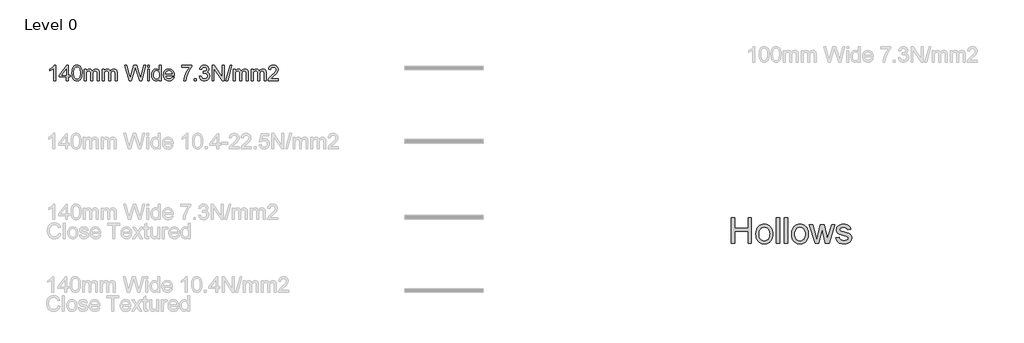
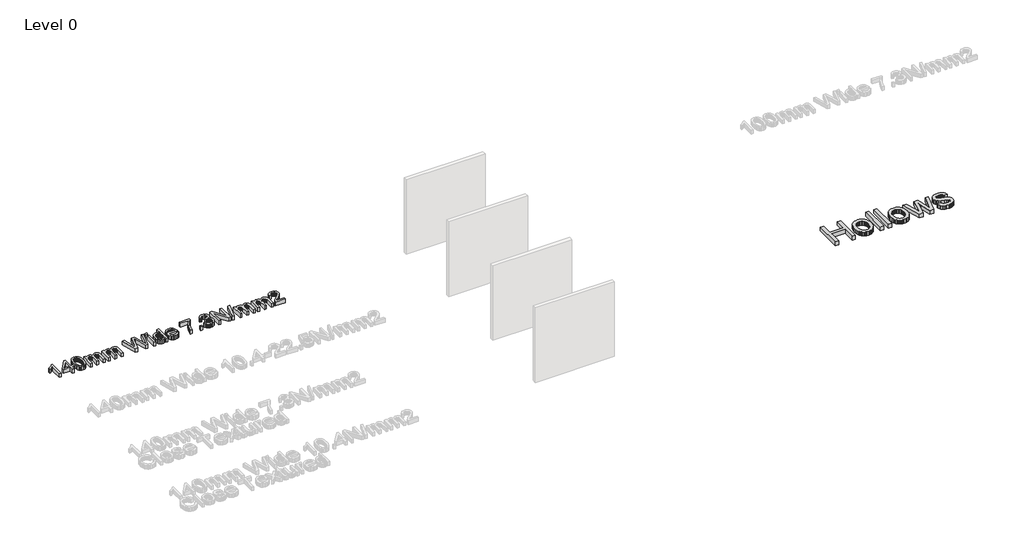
# One storey, part 12 of 14: 2 proxies.
"""IFC4 building model written with IfcOpenShell, lengths in millimetres."""

from ifc_helpers import new_model, si_unit, origin, origin_with_axes, place, context, project, spatial, polyline, outline, extrude, element, save

model = new_model("IFC4")

# Units and contexts
model_context = context("Model", 3, world=origin())
ifc_project = project(units=[si_unit("LENGTHUNIT", "METRE", prefix="MILLI")], contexts=[model_context])

# Site, building, storey
site = spatial("IfcSite", under=ifc_project)
building = spatial("IfcBuilding", under=site)
storey = spatial("IfcBuildingStorey", under=building, Name="Level 0", Elevation=0.0)

# Proxies
placement = place(None, origin())
element("IfcBuildingElementProxy", 1, Name="1000", ObjectType="1000", at=placement, inside=storey, context=model_context, shape_type="SweptSolid", body=[
    extrude(outline(polyline([(12341.4423645, 13445.5427397), (12341.4423645, 14424.9366791), (12463.8666069, 14424.9366791), (12463.8666069, 14027.0578912), (12984.1696372, 14027.0578912), (12984.1696372, 14424.9366791), (13106.5938796, 14424.9366791), (13106.5938796, 13445.5427397), (12984.1696372, 13445.5427397), (12984.1696372, 13904.6336488), (12463.8666069, 13904.6336488), (12463.8666069, 13445.5427397), (12341.4423645, 13445.5427397)])), origin_with_axes(), (0.0, 0.0, 1.0), 150.0),
    extrude(outline(polyline([(13274.927213, 13805.1639519), (13276.5823015, 13853.3483224), (13281.5475669, 13898.3121822), (13289.8230093, 13940.0555312), (13301.4086287, 13978.5783695), (13316.304425, 14013.8806969), (13334.5103983, 14045.9625136), (13356.0265486, 14074.8238196), (13380.8528758, 14100.4646147), (13427.509185, 14135.2999308), (13479.0074687, 14160.1822994), (13535.3477267, 14175.1117206), (13596.5299592, 14180.0881943), (13664.0710192, 14174.0282541), (13695.4149578, 14166.4533288), (13725.1411689, 14155.8484334), (13753.2496525, 14142.2135679), (13779.7404084, 14125.5487323), (13804.6134368, 14105.8539265), (13827.8687376, 14083.1291507), (13848.9122723, 14057.7330695), (13867.1500024, 14030.0243478), (13882.5819278, 14000.0029855), (13895.2080487, 13967.6689826), (13905.0283649, 13933.0223392), (13912.0428764, 13896.0630552), (13917.6544857, 13815.2065655), (13915.173721, 13749.6755226), (13907.731427, 13691.5269964), (13895.3276036, 13640.7609867), (13877.9622508, 13597.3774935), (13855.852062, 13559.9044969), (13829.2137305, 13526.8699769), (13798.0472562, 13498.2739335), (13762.3526391, 13474.1163666), (13723.5197053, 13454.9203291), (13682.9382807, 13441.2088737), (13640.6083653, 13432.9820005), (13596.5299592, 13430.2397094), (13528.002571, 13436.2772331), (13496.3223842, 13443.8241377), (13466.3645354, 13454.3898041), (13438.1290248, 13467.9742324), (13411.6158523, 13484.5774225), (13386.8250179, 13504.1993744), (13363.7565217, 13526.8400882), (13342.9371525, 13552.3202314), (13324.8936991, 13580.4604717), (13309.6261617, 13611.2608091), (13297.1345401, 13644.7212435), (13287.4188345, 13680.841775), (13280.4790448, 13719.6224036), (13274.927213, 13805.1639519)]), holes=[polyline([(13397.3514554, 13805.4030617), (13400.89327, 13746.0216253), (13411.5187139, 13694.6055357), (13429.2277871, 13651.1547929), (13454.0204895, 13615.6693969), (13484.1782191, 13588.1045147), (13517.982374, 13568.4153131), (13555.432954, 13556.6017922), (13596.5299592, 13552.6639519), (13637.4177433, 13556.6242087), (13674.7188796, 13568.5049793), (13708.4333683, 13588.3062636), (13738.5612092, 13616.0280617), (13763.3539116, 13651.8646502), (13781.0629847, 13696.010306), (13791.6884286, 13748.465029), (13795.2302433, 13809.2288193), (13791.6660121, 13866.7272657), (13780.9733186, 13916.7983624), (13763.1521627, 13959.4421094), (13738.2025444, 13994.6585068), (13707.9626208, 14022.223389), (13674.2705487, 14041.9125906), (13637.1263281, 14053.7261115), (13596.5299592, 14057.6639519), (13555.432954, 14053.7410559), (13517.982374, 14041.972368), (13484.1782191, 14022.3578883), (13454.0204895, 13994.8976166), (13429.2277871, 13959.5168312), (13411.5187139, 13916.1408103), (13400.89327, 13864.7695538), (13397.3514554, 13805.4030617)])]), origin_with_axes(), (0.0, 0.0, 1.0), 150.0),
    extrude(outline(polyline([(14055.3817584, 13445.5427397), (14055.3817584, 14424.9366791), (14177.8060008, 14424.9366791), (14177.8060008, 13445.5427397), (14055.3817584, 13445.5427397)])), origin_with_axes(), (0.0, 0.0, 1.0), 150.0),
    extrude(outline(polyline([(14361.4423645, 13445.5427397), (14361.4423645, 14424.9366791), (14483.8666069, 14424.9366791), (14483.8666069, 13445.5427397), (14361.4423645, 13445.5427397)])), origin_with_axes(), (0.0, 0.0, 1.0), 150.0),
    extrude(outline(polyline([(14636.8969099, 13805.1639519), (14638.5519984, 13853.3483224), (14643.5172639, 13898.3121822), (14651.7927063, 13940.0555312), (14663.3783257, 13978.5783695), (14678.274122, 14013.8806969), (14696.4800953, 14045.9625136), (14717.9962456, 14074.8238196), (14742.8225728, 14100.4646147), (14789.478882, 14135.2999308), (14840.9771656, 14160.1822994), (14897.3174237, 14175.1117206), (14958.4996562, 14180.0881943), (15026.0407162, 14174.0282541), (15057.3846548, 14166.4533288), (15087.1108659, 14155.8484334), (15115.2193494, 14142.2135679), (15141.7101054, 14125.5487323), (15166.5831337, 14105.8539265), (15189.8384346, 14083.1291507), (15210.8819693, 14057.7330695), (15229.1196994, 14030.0243478), (15244.5516248, 14000.0029855), (15257.1777456, 13967.6689826), (15266.9980618, 13933.0223392), (15274.0125734, 13896.0630552), (15279.6241827, 13815.2065655), (15277.143418, 13749.6755226), (15269.701124, 13691.5269964), (15257.2973006, 13640.7609867), (15239.9319478, 13597.3774935), (15217.821759, 13559.9044969), (15191.1834275, 13526.8699769), (15160.0169531, 13498.2739335), (15124.3223361, 13474.1163666), (15085.4894022, 13454.9203291), (15044.9079776, 13441.2088737), (15002.5780623, 13432.9820005), (14958.4996562, 13430.2397094), (14889.972268, 13436.2772331), (14858.2920811, 13443.8241377), (14828.3342324, 13454.3898041), (14800.0987218, 13467.9742324), (14773.5855493, 13484.5774225), (14748.7947149, 13504.1993744), (14725.7262187, 13526.8400882), (14704.9068494, 13552.3202314), (14686.8633961, 13580.4604717), (14671.5958587, 13611.2608091), (14659.1042371, 13644.7212435), (14649.3885315, 13680.841775), (14642.4487417, 13719.6224036), (14636.8969099, 13805.1639519)]), holes=[polyline([(14759.3211524, 13805.4030617), (14762.862967, 13746.0216253), (14773.4884109, 13694.6055357), (14791.197484, 13651.1547929), (14815.9901865, 13615.6693969), (14846.1479161, 13588.1045147), (14879.9520709, 13568.4153131), (14917.4026509, 13556.6017922), (14958.4996562, 13552.6639519), (14999.3874402, 13556.6242087), (15036.6885766, 13568.5049793), (15070.4030652, 13588.3062636), (15100.5309062, 13616.0280617), (15125.3236086, 13651.8646502), (15143.0326817, 13696.010306), (15153.6581256, 13748.465029), (15157.1999402, 13809.2288193), (15153.6357091, 13866.7272657), (15142.9430155, 13916.7983624), (15125.1218596, 13959.4421094), (15100.1722414, 13994.6585068), (15069.9323177, 14022.223389), (15036.2402456, 14041.9125906), (14999.0960251, 14053.7261115), (14958.4996562, 14057.6639519), (14917.4026509, 14053.7410559), (14879.9520709, 14041.972368), (14846.1479161, 14022.3578883), (14815.9901865, 13994.8976166), (14791.197484, 13959.5168312), (14773.4884109, 13916.1408103), (14762.862967, 13864.7695538), (14759.3211524, 13805.4030617)])]), origin_with_axes(), (0.0, 0.0, 1.0), 150.0),
    extrude(outline(polyline([(15536.6672698, 13445.5427397), (15317.8817584, 14164.785164), (15445.0881978, 14164.785164), (15569.1862092, 13745.1473799), (15606.2482357, 13595.2255049), (15636.6151865, 13739.6478534), (15735.3675539, 14164.785164), (15881.2245615, 14164.785164), (15979.4987092, 13740.8434026), (16006.5181221, 13610.0503155), (16045.2539175, 13748.0166981), (16169.5910387, 14164.785164), (16297.2756978, 14164.785164), (16076.8164175, 13445.5427397), (15928.8074213, 13445.5427397), (15834.8372508, 13867.3325125), (15807.5787281, 13998.8429291), (15686.3500349, 13445.5427397), (15536.6672698, 13445.5427397)])), origin_with_axes(), (0.0, 0.0, 1.0), 150.0),
    extrude(outline(polyline([(16335.5332736, 13659.785164), (16457.957516, 13675.0881943), (16465.3549769, 13647.1721195), (16477.2656363, 13622.7231375), (16493.689494, 13601.7412483), (16514.6265501, 13584.2264519), (16540.136582, 13570.4178581), (16570.2793673, 13560.5545769), (16605.0549059, 13554.6366081), (16644.4631978, 13552.6639519), (16683.8266566, 13554.4722201), (16717.7503664, 13559.8970248), (16746.2343271, 13568.9383659), (16769.2785387, 13581.5962435), (16787.0623337, 13596.6900527), (16799.7650444, 13613.0391886), (16807.3866708, 13630.6436512), (16809.927213, 13649.5034405), (16807.3717265, 13666.0319088), (16799.7052669, 13680.7072757), (16786.9278344, 13693.5295413), (16769.0394289, 13704.4987056), (16723.1901154, 13720.0408458), (16643.0285387, 13739.4087435), (16531.304462, 13771.7184618), (16458.6748455, 13799.3057606), (16433.7401717, 13813.1367709), (16412.0185364, 13829.4037127), (16393.5099396, 13848.1065862), (16378.2143815, 13869.2453912), (16366.2364726, 13892.1849923), (16357.6808233, 13916.2902539), (16352.5474337, 13941.561176), (16350.8363039, 13967.9977587), (16356.3358304, 14015.4311749), (16372.8344099, 14059.2181659), (16398.837606, 14097.6251853), (16432.8509819, 14128.9186867), (16466.6551367, 14148.6153605), (16510.6812376, 14165.1438287), (16561.5817466, 14176.3521029), (16616.0091258, 14180.0881943), (16657.1509642, 14178.5862855), (16695.6924829, 14174.0805593), (16731.633682, 14166.5710157), (16764.9745615, 14156.0576545), (16794.92307, 14142.9813347), (16820.6871562, 14127.7829149), (16842.26682, 14110.4623953), (16859.6620615, 14091.0197757), (16873.7695425, 14068.7750876), (16885.4859251, 14043.0483624), (16894.8112092, 14013.8395999), (16901.7453948, 13981.1488003), (16779.3211524, 13965.84577), (16773.4853776, 13986.2971343), (16763.8686784, 14004.3723444), (16750.4710547, 14020.0714004), (16733.2925065, 14033.3943022), (16712.258312, 14044.0122739), (16687.2937494, 14051.5965394), (16658.3988187, 14056.1470987), (16625.5735198, 14057.6639519), (16587.4952764, 14056.2143484), (16555.2752243, 14051.865538), (16528.9133635, 14044.6175207), (16508.409694, 14034.4702965), (16493.0319419, 14022.3952492), (16482.0478332, 14009.3637625), (16475.457368, 13995.3758363), (16473.2605463, 13980.4314708), (16476.9069715, 13961.6015702), (16487.8462471, 13944.8041034), (16506.5565927, 13929.7999604), (16533.5162281, 13917.7846905), (16638.9636713, 13891.721717), (16747.130989, 13859.7407748), (16818.6547224, 13834.0962435), (16843.821034, 13821.5878096), (16866.1180274, 13806.5388335), (16885.5457026, 13788.9493152), (16902.1040596, 13768.8192549), (16915.3372952, 13746.1187636), (16924.7896064, 13720.8179528), (16930.4609932, 13692.9168224), (16932.3514554, 13662.4153723), (16930.1322171, 13631.779423), (16923.4745023, 13602.0401356), (16912.3783109, 13573.1975101), (16896.8436429, 13545.2515465), (16877.1245526, 13519.3156002), (16853.4750941, 13496.5030262), (16825.8952675, 13476.8138246), (16794.3850728, 13460.2479954), (16759.803811, 13447.1193703), (16723.010783, 13437.7417809), (16684.005989, 13432.1152273), (16642.7894289, 13430.2397094), (16576.8997213, 13433.8562459), (16519.3489696, 13444.7058553), (16470.1371739, 13462.7885376), (16429.2643342, 13488.1042928), (16395.8786216, 13520.533566), (16369.1282073, 13559.9568022), (16349.0130913, 13606.3740016), (16335.5332736, 13659.785164)])), origin_with_axes(), (0.0, 0.0, 1.0), 150.0),
])
element("IfcBuildingElementProxy", 2, Name="600mm Arial", ObjectType="600mm Arial", at=placement, inside=storey, context=model_context, shape_type="SweptSolid", body=[
    extrude(outline(polyline([(-13496.3948358, 19671.1811071), (-13570.2409896, 19671.1811071), (-13570.2409896, 20131.5657225), (-13601.0703165, 20106.6318283), (-13640.1929127, 20081.7339917), (-13681.2626242, 20059.9731744), (-13717.9332973, 20044.4503379), (-13717.9332973, 20114.2580302), (-13659.9344992, 20145.808511), (-13609.688105, 20183.3445687), (-13570.07873, 20223.260434), (-13543.9909896, 20261.9503379), (-13496.3948358, 20261.9503379), (-13496.3948358, 19671.1811071)])), origin_with_axes(), (0.0, 0.0, 1.0), 150.0),
    extrude(outline(polyline([(-13081.0102204, 19671.1811071), (-13081.0102204, 19809.6426456), (-13348.7025281, 19809.6426456), (-13348.7025281, 19883.4887994), (-13062.5486819, 20252.7195687), (-13007.1640665, 20252.7195687), (-13007.1640665, 19883.4887994), (-12933.3179127, 19883.4887994), (-12933.3179127, 19809.6426456), (-13007.1640665, 19809.6426456), (-13007.1640665, 19671.1811071), (-13081.0102204, 19671.1811071)]), holes=[polyline([(-13081.0102204, 19883.4887994), (-13081.0102204, 20111.6618763), (-13257.8371435, 19883.4887994), (-13081.0102204, 19883.4887994)])]), origin_with_axes(), (0.0, 0.0, 1.0), 150.0),
    extrude(outline(polyline([(-12868.7025281, 19961.8061071), (-12863.2758454, 20056.3674052), (-12856.492492, 20096.4680663), (-12846.9957973, 20131.7820687), (-12834.8263262, 20162.5978739), (-12820.0246435, 20189.2039437), (-12802.5907492, 20211.6002778), (-12782.5246435, 20229.7868763), (-12759.758718, 20243.8583908), (-12734.2253646, 20253.9094725), (-12705.9245834, 20259.9401215), (-12674.8563742, 20261.9503379), (-12629.3515665, 20257.1907225), (-12588.6063742, 20242.9118763), (-12554.531855, 20219.6726937), (-12529.0390665, 20188.0320687), (-12509.7842588, 20148.260434), (-12494.4236819, 20100.6282225), (-12484.3635858, 20040.1414437), (-12481.0102204, 19961.8061071), (-12486.3828165, 19867.7856744), (-12493.0985617, 19827.8202297), (-12502.500605, 19792.5512994), (-12514.5754247, 19761.7219725), (-12529.3094992, 19735.0753379), (-12546.7028286, 19712.6113956), (-12566.7554127, 19694.3301456), (-12589.5483814, 19680.1639797), (-12615.1628646, 19670.0452898), (-12643.5988622, 19663.9740759), (-12674.8563742, 19661.9503379), (-12715.5294512, 19665.4659629), (-12751.5871435, 19676.0128379), (-12783.0294512, 19693.5909629), (-12809.8563742, 19718.2003379), (-12835.6015665, 19762.6865158), (-12853.9909896, 19818.1162033), (-12865.0246435, 19884.4894004), (-12868.7025281, 19961.8061071)]), holes=[polyline([(-12794.8563742, 19961.9503379), (-12792.6929127, 19897.7541239), (-12786.2025281, 19845.7904821), (-12775.3852204, 19806.0594124), (-12760.2409896, 19778.5609148), (-12741.9236819, 19759.8514797), (-12721.5871435, 19746.4875975), (-12699.2313742, 19738.4692682), (-12674.8563742, 19735.7964917), (-12650.4813742, 19738.4782826), (-12628.125605, 19746.5236552), (-12607.7890665, 19759.9326095), (-12589.4717588, 19778.7051456), (-12574.3275281, 19806.2487153), (-12563.5102204, 19845.9707706), (-12557.0198358, 19897.8713114), (-12554.8563742, 19961.9503379), (-12556.9477204, 20024.4473331), (-12563.2217588, 20075.496011), (-12573.6784896, 20115.0963715), (-12588.3179127, 20143.2484148), (-12606.32873, 20162.8728138), (-12626.8996435, 20176.8902417), (-12650.0306531, 20185.3006985), (-12675.7217588, 20188.104184), (-12699.9705569, 20185.6342321), (-12721.9477204, 20178.2243763), (-12741.6532492, 20165.8746167), (-12759.0871435, 20148.5849533), (-12774.7361819, 20117.9359148), (-12785.9140665, 20076.6137994), (-12792.6207973, 20024.6186071), (-12794.8563742, 19961.9503379)])]), origin_with_axes(), (0.0, 0.0, 1.0), 150.0),
    extrude(outline(polyline([(-12397.9332973, 19671.1811071), (-12397.9332973, 20105.027261), (-12324.0871435, 20105.027261), (-12324.0871435, 20033.6330302), (-12301.875605, 20066.4275013), (-12273.3179127, 20092.1186071), (-12239.3876242, 20108.7231744), (-12201.0582973, 20114.2580302), (-12159.9885858, 20108.6150013), (-12142.5096194, 20101.5612153), (-12127.0679127, 20091.6859148), (-12102.4765665, 20064.588559), (-12086.3948358, 20028.4407225), (-12059.4777685, 20065.9857946), (-12028.7746435, 20092.8037033), (-11994.2854608, 20108.8944485), (-11956.0102204, 20114.2580302), (-11926.4474199, 20112.0269605), (-11900.4994031, 20105.3337513), (-11878.1661699, 20094.1784028), (-11859.4477204, 20078.5609148), (-11844.6505449, 20058.3009989), (-11834.0811338, 20033.2183667), (-11827.7394872, 20003.3130182), (-11825.625605, 19968.5849533), (-11825.625605, 19671.1811071), (-11899.4717588, 19671.1811071), (-11899.4717588, 19936.854184), (-11901.1844992, 19973.6871167), (-11906.3227204, 19998.5128379), (-11915.9501242, 20015.5140398), (-11931.1304127, 20028.8734148), (-11950.6556531, 20037.527261), (-11973.3179127, 20040.4118763), (-11994.2448959, 20038.5639196), (-12013.3239223, 20033.0200494), (-12030.554992, 20023.7802658), (-12045.938105, 20010.8445687), (-12058.5898478, 19993.8343523), (-12067.6268069, 19972.371011), (-12073.0489824, 19946.4545446), (-12074.8563742, 19916.0849533), (-12074.8563742, 19671.1811071), (-12148.7025281, 19671.1811071), (-12148.7025281, 19945.0753379), (-12152.9753646, 19986.8301456), (-12165.7938742, 20016.6137994), (-12175.7052324, 20027.0254581), (-12188.3479608, 20034.4623571), (-12203.7220593, 20038.9244965), (-12221.8275281, 20040.4118763), (-12250.2770473, 20036.4455302), (-12276.4909896, 20024.5464917), (-12298.125605, 20005.0032225), (-12312.8371435, 19978.104184), (-12321.2746435, 19940.7844725), (-12324.0871435, 19889.979184), (-12324.0871435, 19671.1811071), (-12397.9332973, 19671.1811071)])), origin_with_axes(), (0.0, 0.0, 1.0), 150.0),
    extrude(outline(polyline([(-11714.8563742, 19671.1811071), (-11714.8563742, 20105.027261), (-11641.0102204, 20105.027261), (-11641.0102204, 20033.6330302), (-11618.7986819, 20066.4275013), (-11590.2409896, 20092.1186071), (-11556.3107012, 20108.7231744), (-11517.9813742, 20114.2580302), (-11476.9116627, 20108.6150013), (-11459.4326963, 20101.5612153), (-11443.9909896, 20091.6859148), (-11419.3996435, 20064.588559), (-11403.3179127, 20028.4407225), (-11376.4008454, 20065.9857946), (-11345.6977204, 20092.8037033), (-11311.2085377, 20108.8944485), (-11272.9332973, 20114.2580302), (-11243.3704968, 20112.0269605), (-11217.42248, 20105.3337513), (-11195.0892468, 20094.1784028), (-11176.3707973, 20078.5609148), (-11161.5736218, 20058.3009989), (-11151.0042108, 20033.2183667), (-11144.6625641, 20003.3130182), (-11142.5486819, 19968.5849533), (-11142.5486819, 19671.1811071), (-11216.3948358, 19671.1811071), (-11216.3948358, 19936.854184), (-11218.1075762, 19973.6871167), (-11223.2457973, 19998.5128379), (-11232.8732012, 20015.5140398), (-11248.0534896, 20028.8734148), (-11267.57873, 20037.527261), (-11290.2409896, 20040.4118763), (-11311.1679728, 20038.5639196), (-11330.2469992, 20033.0200494), (-11347.4780689, 20023.7802658), (-11362.8611819, 20010.8445687), (-11375.5129247, 19993.8343523), (-11384.5498838, 19972.371011), (-11389.9720593, 19946.4545446), (-11391.7794512, 19916.0849533), (-11391.7794512, 19671.1811071), (-11465.625605, 19671.1811071), (-11465.625605, 19945.0753379), (-11469.8984415, 19986.8301456), (-11482.7169512, 20016.6137994), (-11492.6283093, 20027.0254581), (-11505.2710377, 20034.4623571), (-11520.6451362, 20038.9244965), (-11538.750605, 20040.4118763), (-11567.2001242, 20036.4455302), (-11593.4140665, 20024.5464917), (-11615.0486819, 20005.0032225), (-11629.7602204, 19978.104184), (-11638.1977204, 19940.7844725), (-11641.0102204, 19889.979184), (-11641.0102204, 19671.1811071), (-11714.8563742, 19671.1811071)])), origin_with_axes(), (0.0, 0.0, 1.0), 150.0),
    extrude(outline(polyline([(-10686.0582973, 19671.1811071), (-10847.1640665, 20261.9503379), (-10771.0102204, 20261.9503379), (-10677.5486819, 19873.6811071), (-10648.7025281, 19753.8253379), (-10617.8371435, 19859.8349533), (-10500.7217588, 20261.9503379), (-10390.9621435, 20261.9503379), (-10305.8659896, 19970.4599533), (-10269.4116627, 19862.2868763), (-10242.5486819, 19753.8253379), (-10214.5679127, 19870.2195687), (-10120.2409896, 20261.9503379), (-10044.0871435, 20261.9503379), (-10205.3371435, 19671.1811071), (-10284.2313742, 19671.1811071), (-10425.8659896, 20126.9503379), (-10445.625605, 20190.5561071), (-10467.8371435, 20113.9695687), (-10596.9236819, 19671.1811071), (-10686.0582973, 19671.1811071)])), origin_with_axes(), (0.0, 0.0, 1.0), 150.0),
    extrude(outline(polyline([(-9979.4717588, 19671.1811071), (-9979.4717588, 20105.027261), (-9905.625605, 20105.027261), (-9905.625605, 19671.1811071), (-9979.4717588, 19671.1811071)])), origin_with_axes(), (0.0, 0.0, 1.0), 150.0),
    extrude(outline(polyline([(-9979.4717588, 20188.104184), (-9979.4717588, 20261.9503379), (-9905.625605, 20261.9503379), (-9905.625605, 20188.104184), (-9979.4717588, 20188.104184)])), origin_with_axes(), (0.0, 0.0, 1.0), 150.0),
    extrude(outline(polyline([(-9527.1640665, 19671.1811071), (-9527.1640665, 19740.8445687), (-9549.2584175, 19706.3283427), (-9576.0222396, 19681.6738956), (-9607.4555329, 19666.8812273), (-9643.5582973, 19661.9503379), (-9667.9332973, 19663.7351937), (-9691.2986819, 19669.089761), (-9713.6544512, 19678.0140398), (-9735.000605, 19690.5080302), (-9754.6700762, 19706.1976336), (-9771.9957973, 19724.7087513), (-9786.9777685, 19746.0413836), (-9799.6159896, 19770.1955302), (-9809.6490425, 19796.7114557), (-9816.8155088, 19825.1294244), (-9822.5486819, 19887.6714917), (-9817.26623, 19949.4383187), (-9801.4188742, 20005.2195687), (-9789.5378646, 20030.0723331), (-9775.0246435, 20051.8421648), (-9757.8792108, 20070.5290638), (-9738.1015665, 20086.1330302), (-9716.3903286, 20098.4377177), (-9693.4441146, 20107.2267802), (-9669.2629247, 20112.5002177), (-9643.8467588, 20114.2580302), (-9607.7169512, 20109.2279821), (-9575.7698358, 20094.1378379), (-9548.6905088, 20071.0068283), (-9527.1640665, 20041.854184), (-9527.1640665, 20261.9503379), (-9453.3179127, 20261.9503379), (-9453.3179127, 19671.1811071), (-9527.1640665, 19671.1811071)]), holes=[polyline([(-9748.7025281, 19887.9599533), (-9746.6201963, 19852.1501576), (-9740.3732012, 19821.1630783), (-9729.9615425, 19794.9987153), (-9715.3852204, 19773.6570687), (-9697.9783694, 19757.0930663), (-9679.0751242, 19745.261636), (-9658.6754848, 19738.1627778), (-9636.7794512, 19735.7964917), (-9614.7797516, 19738.0546047), (-9594.5018069, 19744.8289437), (-9575.945617, 19756.1195086), (-9559.1111819, 19771.9262994), (-9545.1343189, 19792.3755182), (-9535.1508454, 19817.5933667), (-9529.1607612, 19847.5798451), (-9527.1640665, 19882.3349533), (-9529.1968189, 19920.4389196), (-9535.2950762, 19953.1162033), (-9545.4588382, 19980.3668042), (-9559.688105, 20002.1907225), (-9576.8921314, 20018.9124773), (-9595.9801723, 20030.8565879), (-9616.9522276, 20038.0230542), (-9639.8082973, 20040.4118763), (-9662.1370233, 20038.1177057), (-9682.5366627, 20031.2351937), (-9701.0072156, 20019.7643403), (-9717.5486819, 20003.7051456), (-9731.1784896, 19982.706047), (-9740.9140665, 19956.4154821), (-9746.7554127, 19924.8334509), (-9748.7025281, 19887.9599533)])]), origin_with_axes(), (0.0, 0.0, 1.0), 150.0),
    extrude(outline(polyline([(-9038.7986819, 19800.4118763), (-8966.3948358, 19791.1811071), (-8977.4960978, 19762.1817081), (-8992.4825762, 19736.6258187), (-9011.3542709, 19714.5134388), (-9034.1111819, 19695.8445687), (-9060.5189343, 19681.0158427), (-9090.3431531, 19670.4238956), (-9123.5838382, 19664.0687273), (-9160.2409896, 19661.9503379), (-9206.0613021, 19665.6056864), (-9246.8876242, 19676.5717321), (-9282.719956, 19694.8484749), (-9313.5582973, 19720.4359148), (-9338.3569752, 19752.6219124), (-9356.0703165, 19790.6943283), (-9366.6983213, 19834.6531624), (-9370.2409896, 19884.4984148), (-9366.6622637, 19936.0338715), (-9355.9260858, 19981.4575494), (-9338.032456, 20020.7694485), (-9312.9813742, 20053.9695687), (-9282.2241627, 20080.3457706), (-9247.2121435, 20099.1859148), (-9207.9453165, 20110.4900013), (-9164.4236819, 20114.2580302), (-9122.3037901, 20110.4990158), (-9084.2133454, 20099.2219725), (-9050.1523478, 20080.4269004), (-9020.1207973, 20054.1137994), (-8995.6060737, 20020.9857946), (-8978.0955569, 19981.746011), (-8967.5892468, 19936.3944485), (-8964.0871435, 19884.9311071), (-8964.5198358, 19865.027261), (-9296.3948358, 19865.027261), (-9292.117492, 19835.5591119), (-9283.6123838, 19809.7508187), (-9270.8795112, 19787.6023812), (-9253.9188742, 19769.1137994), (-9233.6679728, 19754.5374773), (-9211.0643069, 19744.1258187), (-9186.1078766, 19737.8788235), (-9158.7986819, 19735.7964917), (-9119.4957973, 19739.6546648), (-9086.3948358, 19751.229184), (-9059.4957973, 19771.2412033), (-9038.7986819, 19800.4118763)]), holes=[polyline([(-9296.3948358, 19938.8734148), (-9037.9332973, 19938.8734148), (-9047.9212781, 19977.8878379), (-9056.5120233, 19993.230386), (-9067.500605, 20005.7964917), (-9087.6388262, 20020.9407225), (-9110.5534896, 20031.7580302), (-9136.2445954, 20038.2484148), (-9164.7121435, 20040.4118763), (-9190.6781891, 20038.6856143), (-9214.4897877, 20033.5068283), (-9236.1469391, 20024.8755182), (-9255.6496435, 20012.791684), (-9272.0153286, 19997.8142201), (-9284.2614223, 19980.5020206), (-9292.3879247, 19960.8550855), (-9296.3948358, 19938.8734148)])]), origin_with_axes(), (0.0, 0.0, 1.0), 150.0),
    extrude(outline(polyline([(-8677.9332973, 20178.8734148), (-8677.9332973, 20252.7195687), (-8290.2409896, 20252.7195687), (-8290.2409896, 20193.0080302), (-8345.4994031, 20123.074136), (-8400.2169512, 20034.1378379), (-8448.4801723, 19934.3121167), (-8484.375605, 19831.7099533), (-8501.9717588, 19754.9431263), (-8511.7794512, 19671.1811071), (-8585.625605, 19671.1811071), (-8577.6388262, 19747.2988956), (-8556.2746435, 19837.7676456), (-8522.10998, 19933.6630783), (-8475.7217588, 20026.0609148), (-8421.563105, 20109.588559), (-8364.0871435, 20178.8734148), (-8677.9332973, 20178.8734148)])), origin_with_axes(), (0.0, 0.0, 1.0), 150.0),
    extrude(outline(polyline([(-8188.7025281, 19671.1811071), (-8188.7025281, 19745.027261), (-8114.8563742, 19745.027261), (-8114.8563742, 19671.1811071), (-8188.7025281, 19671.1811071)])), origin_with_axes(), (0.0, 0.0, 1.0), 150.0),
    extrude(outline(polyline([(-7994.8563742, 19828.104184), (-7921.0102204, 19837.3349533), (-7904.4777685, 19790.9287033), (-7893.3314343, 19773.3776215), (-7880.2650281, 19759.5945687), (-7864.9810737, 19749.18291), (-7847.1820954, 19741.746011), (-7826.868093, 19737.2838715), (-7804.0390665, 19735.7964917), (-7777.2842588, 19737.8427658), (-7753.4140665, 19743.9815879), (-7732.4284896, 19754.2129581), (-7714.3275281, 19768.5368763), (-7699.751206, 19785.8806263), (-7689.3395473, 19805.1714917), (-7683.0925521, 19826.4094725), (-7681.0102204, 19849.5945687), (-7683.0745233, 19871.675398), (-7689.2674319, 19891.7640398), (-7699.5889463, 19909.8604941), (-7714.0390665, 19925.964761), (-7731.6712781, 19939.1844124), (-7751.5390665, 19948.6270206), (-7773.6424319, 19954.2925855), (-7797.9813742, 19956.1811071), (-7821.3107012, 19954.1618763), (-7849.7602204, 19948.104184), (-7841.5390665, 20021.9503379), (-7829.7121435, 20021.0849533), (-7785.469355, 20026.385434), (-7745.9140665, 20042.2868763), (-7729.6340185, 20054.3121167), (-7718.0054127, 20069.1859148), (-7711.0282492, 20086.9082706), (-7708.7025281, 20107.479184), (-7710.3882252, 20124.1784028), (-7715.4453165, 20139.3722129), (-7723.8738021, 20153.0606143), (-7735.6736819, 20165.2436071), (-7750.1328165, 20175.2451095), (-7766.5390665, 20182.3890398), (-7805.1929127, 20188.104184), (-7843.9188742, 20182.3349533), (-7860.6316146, 20175.1234148), (-7875.5775281, 20165.027261), (-7888.3870233, 20152.0464917), (-7898.6905088, 20136.1811071), (-7906.4879848, 20117.4311071), (-7911.7794512, 20095.7964917), (-7985.625605, 20105.027261), (-7976.8726002, 20140.2826696), (-7963.8828165, 20171.3373571), (-7946.656254, 20198.1913235), (-7925.1929127, 20220.8445687), (-7900.1688742, 20238.8283427), (-7872.2602204, 20251.6738956), (-7841.4669512, 20259.3812273), (-7807.7890665, 20261.9503379), (-7761.3647877, 20256.8842321), (-7718.7265665, 20241.6859148), (-7682.7770473, 20217.7075494), (-7656.4188742, 20186.3012994), (-7640.2469992, 20150.1174052), (-7634.8563742, 20111.8061071), (-7639.9765665, 20076.1089917), (-7655.3371435, 20043.729184), (-7680.7217588, 20016.1450494), (-7715.9140665, 19994.8349533), (-7691.3046915, 19987.136636), (-7669.688105, 19976.1570687), (-7651.0643069, 19961.8962513), (-7635.4332973, 19944.354184), (-7623.0655088, 19923.963559), (-7614.2313742, 19901.1570687), (-7608.9308935, 19875.9347129), (-7607.1640665, 19848.2964917), (-7610.6977204, 19810.8325494), (-7621.2986819, 19776.3253379), (-7638.9669512, 19744.7748571), (-7663.7025281, 19716.1811071), (-7693.8377444, 19692.4551456), (-7727.7049319, 19675.5080302), (-7765.3040906, 19665.339761), (-7806.6352204, 19661.9503379), (-7843.9909896, 19664.8439677), (-7878.0294512, 19673.5248571), (-7908.750605, 19687.9930062), (-7936.1544512, 19708.2484148), (-7959.1322156, 19733.1011792), (-7976.5751242, 19761.3613956), (-7988.4831771, 19793.0290638), (-7994.8563742, 19828.104184)])), origin_with_axes(), (0.0, 0.0, 1.0), 150.0),
    extrude(outline(polyline([(-7514.8563742, 19671.1811071), (-7514.8563742, 20261.9503379), (-7435.8179127, 20261.9503379), (-7127.1640665, 19793.9214917), (-7127.1640665, 20261.9503379), (-7053.3179127, 20261.9503379), (-7053.3179127, 19671.1811071), (-7132.3563742, 19671.1811071), (-7441.0102204, 20139.354184), (-7441.0102204, 19671.1811071), (-7514.8563742, 19671.1811071)])), origin_with_axes(), (0.0, 0.0, 1.0), 150.0),
    extrude(outline(polyline([(-6988.7025281, 19671.1811071), (-6822.5486819, 20261.9503379), (-6755.9140665, 20261.9503379), (-6922.0679127, 19671.1811071), (-6988.7025281, 19671.1811071)])), origin_with_axes(), (0.0, 0.0, 1.0), 150.0),
    extrude(outline(polyline([(-6702.5486819, 19671.1811071), (-6702.5486819, 20105.027261), (-6628.7025281, 20105.027261), (-6628.7025281, 20033.6330302), (-6606.4909896, 20066.4275013), (-6577.9332973, 20092.1186071), (-6544.0030088, 20108.7231744), (-6505.6736819, 20114.2580302), (-6464.6039704, 20108.6150013), (-6447.125004, 20101.5612153), (-6431.6832973, 20091.6859148), (-6407.0919512, 20064.588559), (-6391.0102204, 20028.4407225), (-6364.0931531, 20065.9857946), (-6333.3900281, 20092.8037033), (-6298.9008454, 20108.8944485), (-6260.625605, 20114.2580302), (-6231.0628045, 20112.0269605), (-6205.1147877, 20105.3337513), (-6182.7815545, 20094.1784028), (-6164.063105, 20078.5609148), (-6149.2659295, 20058.3009989), (-6138.6965185, 20033.2183667), (-6132.3548718, 20003.3130182), (-6130.2409896, 19968.5849533), (-6130.2409896, 19671.1811071), (-6204.0871435, 19671.1811071), (-6204.0871435, 19936.854184), (-6205.7998838, 19973.6871167), (-6210.938105, 19998.5128379), (-6220.5655088, 20015.5140398), (-6235.7457973, 20028.8734148), (-6255.2710377, 20037.527261), (-6277.9332973, 20040.4118763), (-6298.8602805, 20038.5639196), (-6317.9393069, 20033.0200494), (-6335.1703766, 20023.7802658), (-6350.5534896, 20010.8445687), (-6363.2052324, 19993.8343523), (-6372.2421915, 19972.371011), (-6377.664367, 19946.4545446), (-6379.4717588, 19916.0849533), (-6379.4717588, 19671.1811071), (-6453.3179127, 19671.1811071), (-6453.3179127, 19945.0753379), (-6457.5907492, 19986.8301456), (-6470.4092588, 20016.6137994), (-6480.320617, 20027.0254581), (-6492.9633454, 20034.4623571), (-6508.3374439, 20038.9244965), (-6526.4429127, 20040.4118763), (-6554.8924319, 20036.4455302), (-6581.1063742, 20024.5464917), (-6602.7409896, 20005.0032225), (-6617.4525281, 19978.104184), (-6625.8900281, 19940.7844725), (-6628.7025281, 19889.979184), (-6628.7025281, 19671.1811071), (-6702.5486819, 19671.1811071)])), origin_with_axes(), (0.0, 0.0, 1.0), 150.0),
    extrude(outline(polyline([(-6019.4717588, 19671.1811071), (-6019.4717588, 20105.027261), (-5945.625605, 20105.027261), (-5945.625605, 20033.6330302), (-5923.4140665, 20066.4275013), (-5894.8563742, 20092.1186071), (-5860.9260858, 20108.7231744), (-5822.5967588, 20114.2580302), (-5781.5270473, 20108.6150013), (-5764.048081, 20101.5612153), (-5748.6063742, 20091.6859148), (-5724.0150281, 20064.588559), (-5707.9332973, 20028.4407225), (-5681.01623, 20065.9857946), (-5650.313105, 20092.8037033), (-5615.8239223, 20108.8944485), (-5577.5486819, 20114.2580302), (-5547.9858814, 20112.0269605), (-5522.0378646, 20105.3337513), (-5499.7046314, 20094.1784028), (-5480.9861819, 20078.5609148), (-5466.1890064, 20058.3009989), (-5455.6195954, 20033.2183667), (-5449.2779487, 20003.3130182), (-5447.1640665, 19968.5849533), (-5447.1640665, 19671.1811071), (-5521.0102204, 19671.1811071), (-5521.0102204, 19936.854184), (-5522.7229608, 19973.6871167), (-5527.8611819, 19998.5128379), (-5537.4885858, 20015.5140398), (-5552.6688742, 20028.8734148), (-5572.1941146, 20037.527261), (-5594.8563742, 20040.4118763), (-5615.7833574, 20038.5639196), (-5634.8623838, 20033.0200494), (-5652.0934536, 20023.7802658), (-5667.4765665, 20010.8445687), (-5680.1283093, 19993.8343523), (-5689.1652685, 19972.371011), (-5694.5874439, 19946.4545446), (-5696.3948358, 19916.0849533), (-5696.3948358, 19671.1811071), (-5770.2409896, 19671.1811071), (-5770.2409896, 19945.0753379), (-5774.5138262, 19986.8301456), (-5787.3323358, 20016.6137994), (-5797.2436939, 20027.0254581), (-5809.8864223, 20034.4623571), (-5825.2605209, 20038.9244965), (-5843.3659896, 20040.4118763), (-5871.8155088, 20036.4455302), (-5898.0294512, 20024.5464917), (-5919.6640665, 20005.0032225), (-5934.375605, 19978.104184), (-5942.813105, 19940.7844725), (-5945.625605, 19889.979184), (-5945.625605, 19671.1811071), (-6019.4717588, 19671.1811071)])), origin_with_axes(), (0.0, 0.0, 1.0), 150.0),
    extrude(outline(polyline([(-4976.3948358, 19745.027261), (-4976.3948358, 19671.1811071), (-5364.0871435, 19671.1811071), (-5362.4645473, 19697.1787033), (-5356.1544512, 19722.0945687), (-5337.9453165, 19761.8842321), (-5311.2986819, 19800.4839917), (-5272.7530088, 19840.886636), (-5218.8467588, 19886.0849533), (-5139.1592588, 19956.8662033), (-5091.3467588, 20009.1137994), (-5077.4014463, 20030.4599533), (-5067.4405088, 20051.5176456), (-5061.4639463, 20072.2868763), (-5059.4717588, 20092.7676456), (-5061.3512661, 20112.0359749), (-5066.9897877, 20129.744809), (-5076.3873237, 20145.894148), (-5089.5438742, 20160.4839917), (-5105.7292709, 20172.5678259), (-5124.2133454, 20181.199136), (-5144.9960978, 20186.377922), (-5168.0775281, 20188.104184), (-5192.3939343, 20186.4184869), (-5214.14123, 20181.3613956), (-5233.3194151, 20172.93291), (-5249.9284896, 20161.1330302), (-5263.3644872, 20146.3583908), (-5273.0234415, 20129.0056263), (-5278.9053526, 20109.0747369), (-5281.0102204, 20086.5657225), (-5354.8563742, 20095.7964917), (-5348.5057132, 20133.9184869), (-5336.95373, 20167.2267802), (-5320.2004247, 20195.7213715), (-5298.2457973, 20219.402261), (-5271.5946555, 20238.0170446), (-5240.7518069, 20251.3133187), (-5205.7172516, 20259.2910831), (-5166.4909896, 20261.9503379), (-5126.9131651, 20258.9936071), (-5091.6893069, 20250.1234148), (-5060.8194151, 20235.339761), (-5034.3034896, 20214.6426456), (-5013.0069151, 20189.5645206), (-4997.7950762, 20161.6378379), (-4988.6679728, 20130.8625975), (-4985.625605, 20097.2387994), (-4988.906855, 20061.9202898), (-4998.750605, 20027.214761), (-5016.2205569, 19991.9142802), (-5042.3804127, 19954.8109148), (-5084.0811338, 19910.5140398), (-5148.1736819, 19853.6330302), (-5233.125605, 19782.5993763), (-5266.4429127, 19745.027261), (-4976.3948358, 19745.027261)])), origin_with_axes(), (0.0, 0.0, 1.0), 150.0),
])

save(model, "model.ifc")
